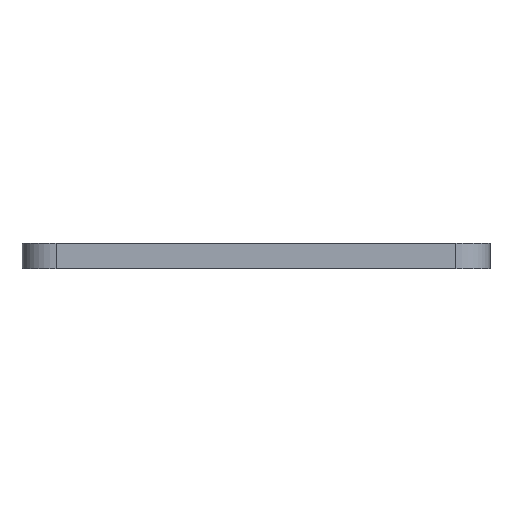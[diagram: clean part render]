
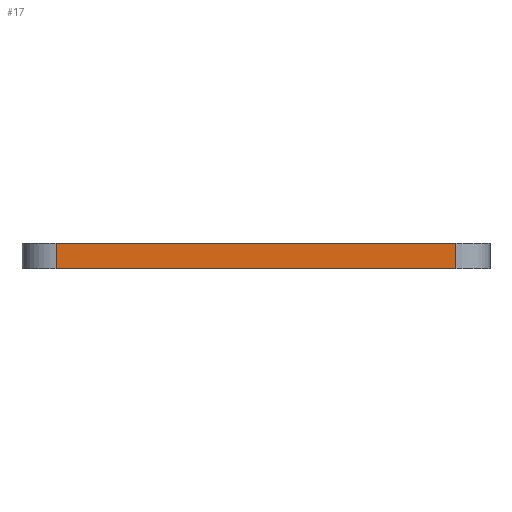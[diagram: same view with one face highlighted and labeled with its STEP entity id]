
A CAD part, left-side view. The second image highlights one B-rep face of the part: STEP entity #17.
In plain terms, the highlighted planar face has unit normal (-1, 0, 0).
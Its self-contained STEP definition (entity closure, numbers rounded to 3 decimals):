
#17 = ADVANCED_FACE('',(#18),#32,.F.);
#18 = FACE_BOUND('',#19,.F.);
#19 = EDGE_LOOP('',(#20,#55,#83,#111));
#20 = ORIENTED_EDGE('',*,*,#21,.F.);
#21 = EDGE_CURVE('',#22,#24,#26,.T.);
#22 = VERTEX_POINT('',#23);
#23 = CARTESIAN_POINT('',(-35.,-23.5,15.));
#24 = VERTEX_POINT('',#25);
#25 = CARTESIAN_POINT('',(-35.,23.5,15.));
#26 = SURFACE_CURVE('',#27,(#31,#43),.PCURVE_S1.);
#27 = LINE('',#28,#29);
#28 = CARTESIAN_POINT('',(-35.,-27.5,15.));
#29 = VECTOR('',#30,1.);
#30 = DIRECTION('',(0.,1.,0.));
#31 = PCURVE('',#32,#37);
#32 = PLANE('',#33);
#33 = AXIS2_PLACEMENT_3D('',#34,#35,#36);
#34 = CARTESIAN_POINT('',(-35.,-27.5,12.));
#35 = DIRECTION('',(1.,0.,0.));
#36 = DIRECTION('',(0.,0.,1.));
#37 = DEFINITIONAL_REPRESENTATION('',(#38),#42);
#38 = LINE('',#39,#40);
#39 = CARTESIAN_POINT('',(3.,0.));
#40 = VECTOR('',#41,1.);
#41 = DIRECTION('',(0.,-1.));
#42 = ( GEOMETRIC_REPRESENTATION_CONTEXT(2) 
PARAMETRIC_REPRESENTATION_CONTEXT() REPRESENTATION_CONTEXT('2D SPACE',''
  ) );
#43 = PCURVE('',#44,#49);
#44 = PLANE('',#45);
#45 = AXIS2_PLACEMENT_3D('',#46,#47,#48);
#46 = CARTESIAN_POINT('',(-35.,-27.5,15.));
#47 = DIRECTION('',(0.,0.,1.));
#48 = DIRECTION('',(1.,0.,0.));
#49 = DEFINITIONAL_REPRESENTATION('',(#50),#54);
#50 = LINE('',#51,#52);
#51 = CARTESIAN_POINT('',(0.,0.));
#52 = VECTOR('',#53,1.);
#53 = DIRECTION('',(0.,1.));
#54 = ( GEOMETRIC_REPRESENTATION_CONTEXT(2) 
PARAMETRIC_REPRESENTATION_CONTEXT() REPRESENTATION_CONTEXT('2D SPACE',''
  ) );
#55 = ORIENTED_EDGE('',*,*,#56,.F.);
#56 = EDGE_CURVE('',#57,#22,#59,.T.);
#57 = VERTEX_POINT('',#58);
#58 = CARTESIAN_POINT('',(-35.,-23.5,12.));
#59 = SURFACE_CURVE('',#60,(#64,#71),.PCURVE_S1.);
#60 = LINE('',#61,#62);
#61 = CARTESIAN_POINT('',(-35.,-23.5,12.));
#62 = VECTOR('',#63,1.);
#63 = DIRECTION('',(0.,0.,1.));
#64 = PCURVE('',#32,#65);
#65 = DEFINITIONAL_REPRESENTATION('',(#66),#70);
#66 = LINE('',#67,#68);
#67 = CARTESIAN_POINT('',(0.,-4.));
#68 = VECTOR('',#69,1.);
#69 = DIRECTION('',(1.,0.));
#70 = ( GEOMETRIC_REPRESENTATION_CONTEXT(2) 
PARAMETRIC_REPRESENTATION_CONTEXT() REPRESENTATION_CONTEXT('2D SPACE',''
  ) );
#71 = PCURVE('',#72,#77);
#72 = CYLINDRICAL_SURFACE('',#73,4.);
#73 = AXIS2_PLACEMENT_3D('',#74,#75,#76);
#74 = CARTESIAN_POINT('',(-31.,-23.5,12.));
#75 = DIRECTION('',(0.,0.,1.));
#76 = DIRECTION('',(-1.,-0.,0.));
#77 = DEFINITIONAL_REPRESENTATION('',(#78),#82);
#78 = LINE('',#79,#80);
#79 = CARTESIAN_POINT('',(0.,0.));
#80 = VECTOR('',#81,1.);
#81 = DIRECTION('',(0.,1.));
#82 = ( GEOMETRIC_REPRESENTATION_CONTEXT(2) 
PARAMETRIC_REPRESENTATION_CONTEXT() REPRESENTATION_CONTEXT('2D SPACE',''
  ) );
#83 = ORIENTED_EDGE('',*,*,#84,.T.);
#84 = EDGE_CURVE('',#57,#85,#87,.T.);
#85 = VERTEX_POINT('',#86);
#86 = CARTESIAN_POINT('',(-35.,23.5,12.));
#87 = SURFACE_CURVE('',#88,(#92,#99),.PCURVE_S1.);
#88 = LINE('',#89,#90);
#89 = CARTESIAN_POINT('',(-35.,-27.5,12.));
#90 = VECTOR('',#91,1.);
#91 = DIRECTION('',(0.,1.,0.));
#92 = PCURVE('',#32,#93);
#93 = DEFINITIONAL_REPRESENTATION('',(#94),#98);
#94 = LINE('',#95,#96);
#95 = CARTESIAN_POINT('',(0.,0.));
#96 = VECTOR('',#97,1.);
#97 = DIRECTION('',(0.,-1.));
#98 = ( GEOMETRIC_REPRESENTATION_CONTEXT(2) 
PARAMETRIC_REPRESENTATION_CONTEXT() REPRESENTATION_CONTEXT('2D SPACE',''
  ) );
#99 = PCURVE('',#100,#105);
#100 = PLANE('',#101);
#101 = AXIS2_PLACEMENT_3D('',#102,#103,#104);
#102 = CARTESIAN_POINT('',(-35.,-27.5,12.));
#103 = DIRECTION('',(0.,0.,1.));
#104 = DIRECTION('',(1.,0.,0.));
#105 = DEFINITIONAL_REPRESENTATION('',(#106),#110);
#106 = LINE('',#107,#108);
#107 = CARTESIAN_POINT('',(0.,0.));
#108 = VECTOR('',#109,1.);
#109 = DIRECTION('',(0.,1.));
#110 = ( GEOMETRIC_REPRESENTATION_CONTEXT(2) 
PARAMETRIC_REPRESENTATION_CONTEXT() REPRESENTATION_CONTEXT('2D SPACE',''
  ) );
#111 = ORIENTED_EDGE('',*,*,#112,.T.);
#112 = EDGE_CURVE('',#85,#24,#113,.T.);
#113 = SURFACE_CURVE('',#114,(#118,#125),.PCURVE_S1.);
#114 = LINE('',#115,#116);
#115 = CARTESIAN_POINT('',(-35.,23.5,12.));
#116 = VECTOR('',#117,1.);
#117 = DIRECTION('',(0.,0.,1.));
#118 = PCURVE('',#32,#119);
#119 = DEFINITIONAL_REPRESENTATION('',(#120),#124);
#120 = LINE('',#121,#122);
#121 = CARTESIAN_POINT('',(0.,-51.));
#122 = VECTOR('',#123,1.);
#123 = DIRECTION('',(1.,0.));
#124 = ( GEOMETRIC_REPRESENTATION_CONTEXT(2) 
PARAMETRIC_REPRESENTATION_CONTEXT() REPRESENTATION_CONTEXT('2D SPACE',''
  ) );
#125 = PCURVE('',#126,#131);
#126 = CYLINDRICAL_SURFACE('',#127,4.);
#127 = AXIS2_PLACEMENT_3D('',#128,#129,#130);
#128 = CARTESIAN_POINT('',(-31.,23.5,12.));
#129 = DIRECTION('',(0.,0.,1.));
#130 = DIRECTION('',(-1.,-0.,0.));
#131 = DEFINITIONAL_REPRESENTATION('',(#132),#136);
#132 = LINE('',#133,#134);
#133 = CARTESIAN_POINT('',(-0.,0.));
#134 = VECTOR('',#135,1.);
#135 = DIRECTION('',(-0.,1.));
#136 = ( GEOMETRIC_REPRESENTATION_CONTEXT(2) 
PARAMETRIC_REPRESENTATION_CONTEXT() REPRESENTATION_CONTEXT('2D SPACE',''
  ) );
